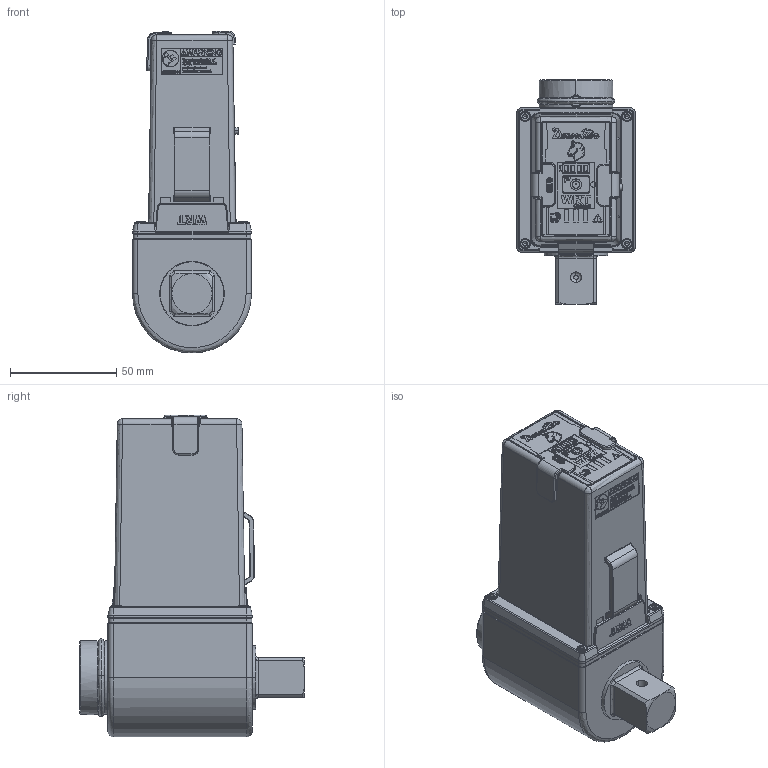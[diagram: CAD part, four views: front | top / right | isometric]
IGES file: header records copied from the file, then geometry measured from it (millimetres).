
Start section:  PTC IGES file: 6152210570_dim.igs
Global section: file name: 6152210570_dim.igs; native system: Creo Parametric by PTC Inc.; preprocessor: 2023254; author: S00000450; organization: Unknown; date: 20240301.151523; units: millimetre
Bounding box: 56 x 106 x 151.77 mm (x, y, z)
Surface area: 110348.7 mm2 (no closed solid volume)
Topology: 0 solids, 0 shells, 4901 faces, 26403 edges, 26341 vertices
Faces by surface type: bspline 2257, extrusion 1335, revolution 1309
